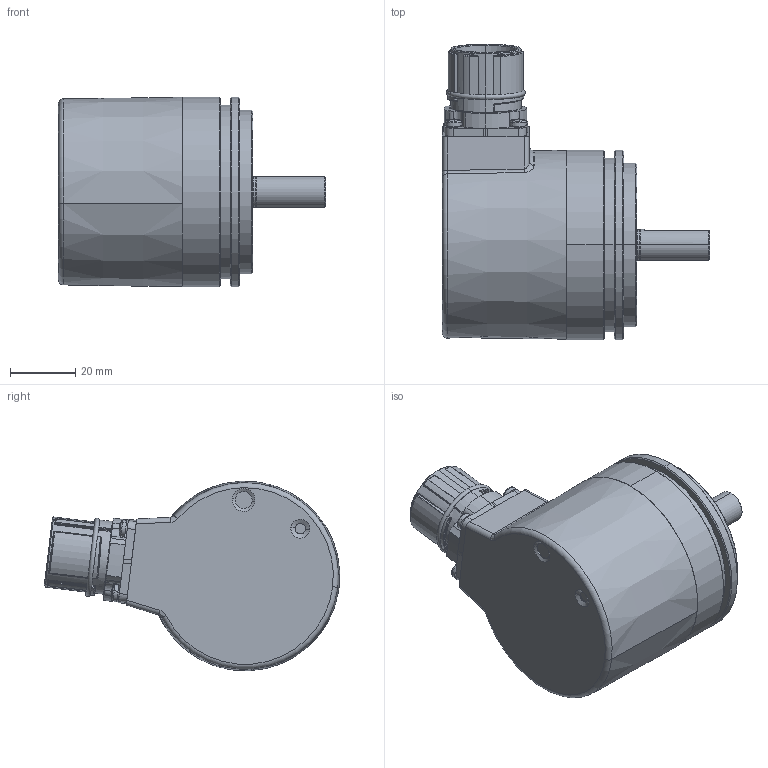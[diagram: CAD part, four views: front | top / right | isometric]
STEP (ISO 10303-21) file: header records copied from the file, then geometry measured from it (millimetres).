
FILE_DESCRIPTION (( 'STEP AP214' ), '1' );
FILE_NAME ('8.F5863.44X4.XXXX.STEP', '2014-05-22T09:09:26', ( 'HeirlerN' ), ( 'Microsoft' ), 'SwSTEP 2.0', 'SolidWorks 2013', '' );
FILE_SCHEMA (( 'AUTOMOTIVE_DESIGN' ));
Length unit declared in the file: millimetre
Products named in the file (1): 8.F5863.44X4.XXXX
Bounding box: 81.7 x 90.43 x 58 mm (x, y, z)
Volume: 85630.7 mm3; surface area: 50595.9 mm2
Topology: 22 solids, 22 shells, 1328 faces, 3135 edges, 1878 vertices
Faces by surface type: cylinder 537, plane 294, cone 225, torus 133, sphere 76, bspline 63
Entity records: 55009 total; most frequent: CARTESIAN_POINT 9832, DIRECTION 6868, ORIENTED_EDGE 6014, EDGE_CURVE 3007, AXIS2_PLACEMENT_3D 2921, VERTEX_POINT 1840, CIRCLE 1655, EDGE_LOOP 1509
